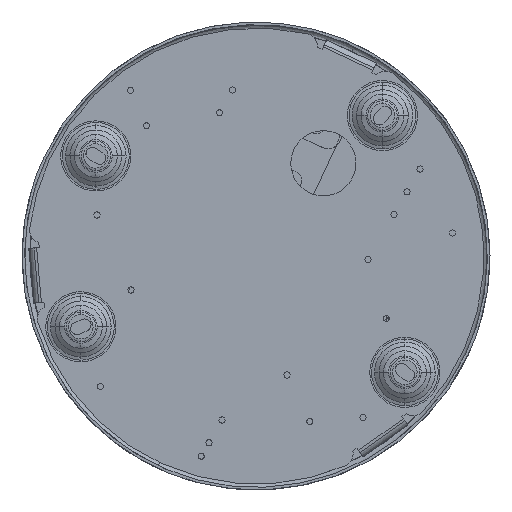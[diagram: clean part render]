
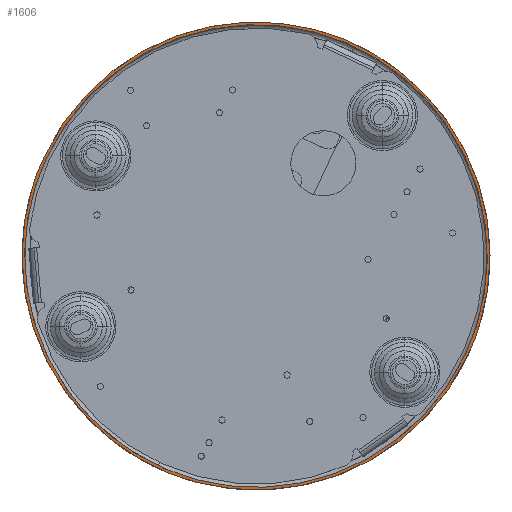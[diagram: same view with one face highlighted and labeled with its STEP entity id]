
A CAD part, top view. The second image highlights one B-rep face of the part: STEP entity #1606.
In plain terms, the highlighted planar face has unit normal (0, 0, 1).
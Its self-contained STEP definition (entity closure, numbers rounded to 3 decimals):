
#746=FACE_BOUND('',#3552,.T.);
#1606=ADVANCED_FACE('',(#2474,#746),#14118,.T.);
#2474=FACE_OUTER_BOUND('',#3551,.T.);
#3551=EDGE_LOOP('',(#7795,#7796));
#3552=EDGE_LOOP('',(#7797,#7798));
#7795=ORIENTED_EDGE('',*,*,#10061,.F.);
#7796=ORIENTED_EDGE('',*,*,#10032,.F.);
#7797=ORIENTED_EDGE('',*,*,#10046,.T.);
#7798=ORIENTED_EDGE('',*,*,#10067,.T.);
#10032=EDGE_CURVE('',#13792,#13812,#11399,.T.);
#10046=EDGE_CURVE('',#13803,#13814,#11412,.T.);
#10061=EDGE_CURVE('',#13812,#13792,#11421,.T.);
#10067=EDGE_CURVE('',#13814,#13803,#11426,.T.);
#11399=(
BOUNDED_CURVE()
B_SPLINE_CURVE(2,(#33576,#33577,#33578,#33579,#33580),.UNSPECIFIED.,.F.,
 .F.)
B_SPLINE_CURVE_WITH_KNOTS((3,2,3),(0.,141.058,282.115),
 .UNSPECIFIED.)
CURVE()
GEOMETRIC_REPRESENTATION_ITEM()
RATIONAL_B_SPLINE_CURVE((1.,0.707,1.,0.707,1.))
REPRESENTATION_ITEM('')
);
#11412=(
BOUNDED_CURVE()
B_SPLINE_CURVE(2,(#33627,#33628,#33629,#33630,#33631),.UNSPECIFIED.,.F.,
 .F.)
B_SPLINE_CURVE_WITH_KNOTS((3,2,3),(-557.947,-418.46,-278.973),
 .UNSPECIFIED.)
CURVE()
GEOMETRIC_REPRESENTATION_ITEM()
RATIONAL_B_SPLINE_CURVE((1.,0.707,1.,0.707,1.))
REPRESENTATION_ITEM('')
);
#11421=(
BOUNDED_CURVE()
B_SPLINE_CURVE(2,(#33684,#33685,#33686,#33687,#33688),.UNSPECIFIED.,.F.,
 .F.)
B_SPLINE_CURVE_WITH_KNOTS((3,2,3),(282.115,423.173,564.23),
 .UNSPECIFIED.)
CURVE()
GEOMETRIC_REPRESENTATION_ITEM()
RATIONAL_B_SPLINE_CURVE((1.,0.707,1.,0.707,1.))
REPRESENTATION_ITEM('')
);
#11426=(
BOUNDED_CURVE()
B_SPLINE_CURVE(2,(#33703,#33704,#33705,#33706,#33707),.UNSPECIFIED.,.F.,
 .F.)
B_SPLINE_CURVE_WITH_KNOTS((3,2,3),(-278.973,-139.487,
0.),.UNSPECIFIED.)
CURVE()
GEOMETRIC_REPRESENTATION_ITEM()
RATIONAL_B_SPLINE_CURVE((1.,0.707,1.,0.707,1.))
REPRESENTATION_ITEM('')
);
#13792=VERTEX_POINT('',#33504);
#13803=VERTEX_POINT('',#33515);
#13812=VERTEX_POINT('',#33524);
#13814=VERTEX_POINT('',#33526);
#14118=PLANE('',#15137);
#15137=AXIS2_PLACEMENT_3D('',#33399,#15761,$);
#15761=DIRECTION('',(0.,0.,1.));
#33399=CARTESIAN_POINT('',(-52.18,143.365,3.));
#33504=CARTESIAN_POINT('',(81.386,-37.951,3.));
#33515=CARTESIAN_POINT('',(80.48,-37.529,3.));
#33524=CARTESIAN_POINT('',(-81.386,37.951,3.));
#33526=CARTESIAN_POINT('',(-80.48,37.529,3.));
#33576=CARTESIAN_POINT('',(81.386,-37.951,3.));
#33577=CARTESIAN_POINT('',(43.435,-119.338,3.));
#33578=CARTESIAN_POINT('',(-37.951,-81.386,3.));
#33579=CARTESIAN_POINT('',(-119.338,-43.435,3.));
#33580=CARTESIAN_POINT('',(-81.386,37.951,3.));
#33627=CARTESIAN_POINT('',(80.48,-37.529,3.));
#33628=CARTESIAN_POINT('',(42.952,-118.009,3.));
#33629=CARTESIAN_POINT('',(-37.529,-80.48,3.));
#33630=CARTESIAN_POINT('',(-118.009,-42.952,3.));
#33631=CARTESIAN_POINT('',(-80.48,37.529,3.));
#33684=CARTESIAN_POINT('',(-81.386,37.951,3.));
#33685=CARTESIAN_POINT('',(-43.435,119.338,3.));
#33686=CARTESIAN_POINT('',(37.951,81.386,3.));
#33687=CARTESIAN_POINT('',(119.338,43.435,3.));
#33688=CARTESIAN_POINT('',(81.386,-37.951,3.));
#33703=CARTESIAN_POINT('',(-80.48,37.529,3.));
#33704=CARTESIAN_POINT('',(-42.952,118.009,3.));
#33705=CARTESIAN_POINT('',(37.529,80.48,3.));
#33706=CARTESIAN_POINT('',(118.009,42.952,3.));
#33707=CARTESIAN_POINT('',(80.48,-37.529,3.));
